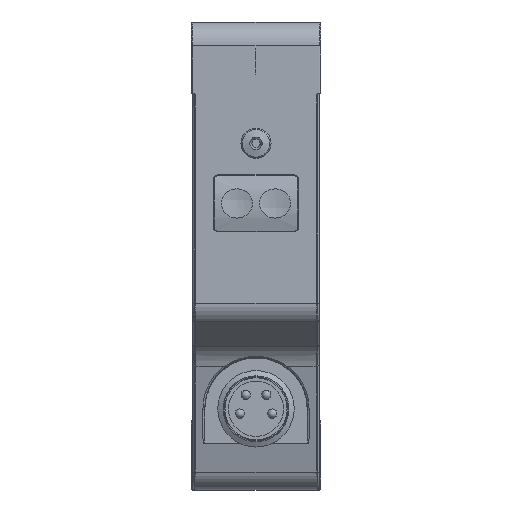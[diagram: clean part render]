
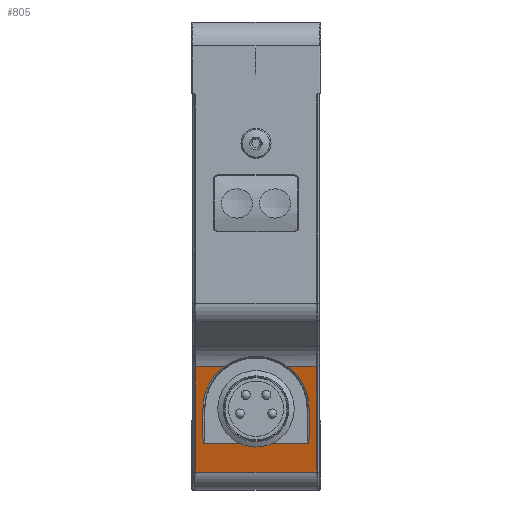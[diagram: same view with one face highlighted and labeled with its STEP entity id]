
A CAD part, left-side view. The second image highlights one B-rep face of the part: STEP entity #805.
In plain terms, the highlighted planar face has unit normal (-0.966, 0, -0.259).
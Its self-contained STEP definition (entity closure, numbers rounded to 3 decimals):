
#805 = ADVANCED_FACE( '', ( #1668 ), #1669, .T. );
#1668 = FACE_OUTER_BOUND( '', #3081, .T. );
#1669 = PLANE( '', #3082 );
#3081 = EDGE_LOOP( '', ( #5721, #5722, #5723, #5724, #5725, #5726, #5727, #5728, #5729, #5730 ) );
#3082 = AXIS2_PLACEMENT_3D( '', #5731, #5732, #5733 );
#5721 = ORIENTED_EDGE( '', *, *, #7218, .T. );
#5722 = ORIENTED_EDGE( '', *, *, #6373, .T. );
#5723 = ORIENTED_EDGE( '', *, *, #6673, .T. );
#5724 = ORIENTED_EDGE( '', *, *, #7219, .T. );
#5725 = ORIENTED_EDGE( '', *, *, #7134, .T. );
#5726 = ORIENTED_EDGE( '', *, *, #6863, .T. );
#5727 = ORIENTED_EDGE( '', *, *, #6674, .T. );
#5728 = ORIENTED_EDGE( '', *, *, #7220, .T. );
#5729 = ORIENTED_EDGE( '', *, *, #7087, .T. );
#5730 = ORIENTED_EDGE( '', *, *, #6574, .T. );
#5731 = CARTESIAN_POINT( '', ( -31.5, -58.085, -13.6 ) );
#5732 = DIRECTION( '', ( -0.966, 0., -0.259 ) );
#5733 = DIRECTION( '', ( 0.259, 0., -0.966 ) );
#6373 = EDGE_CURVE( '', #7406, #7404, #7407, .F. );
#6574 = EDGE_CURVE( '', #7754, #7752, #7755, .T. );
#6673 = EDGE_CURVE( '', #7404, #7386, #7909, .T. );
#6674 = EDGE_CURVE( '', #7910, #7710, #7911, .T. );
#6863 = EDGE_CURVE( '', #8201, #7910, #8202, .T. );
#7087 = EDGE_CURVE( '', #8518, #7754, #8519, .T. );
#7134 = EDGE_CURVE( '', #8253, #8201, #8579, .F. );
#7218 = EDGE_CURVE( '', #7752, #7406, #8676, .T. );
#7219 = EDGE_CURVE( '', #7386, #8253, #8677, .T. );
#7220 = EDGE_CURVE( '', #7710, #8518, #8678, .F. );
#7386 = VERTEX_POINT( '', #8864 );
#7404 = VERTEX_POINT( '', #8886 );
#7406 = VERTEX_POINT( '', #8888 );
#7407 = ELLIPSE( '', #8889, 5.76, 5.564 );
#7710 = VERTEX_POINT( '', #9375 );
#7752 = VERTEX_POINT( '', #9514 );
#7754 = VERTEX_POINT( '', #9516 );
#7755 = LINE( '', #9517, #9518 );
#7909 = LINE( '', #9768, #9769 );
#7910 = VERTEX_POINT( '', #9770 );
#7911 = LINE( '', #9771, #9772 );
#8201 = VERTEX_POINT( '', #10269 );
#8202 = LINE( '', #10270, #10271 );
#8253 = VERTEX_POINT( '', #10336 );
#8518 = VERTEX_POINT( '', #10772 );
#8519 = LINE( '', #10773, #10774 );
#8579 = LINE( '', #10850, #10851 );
#8676 = LINE( '', #11071, #11072 );
#8677 = LINE( '', #11073, #11074 );
#8678 = ELLIPSE( '', #11075, 5.76, 5.564 );
#8864 = CARTESIAN_POINT( '', ( -34.978, 6.4, -0.618 ) );
#8886 = CARTESIAN_POINT( '', ( -34.978, 3.261, -0.618 ) );
#8888 = CARTESIAN_POINT( '', ( -33.764, 5.563, -5.152 ) );
#8889 = AXIS2_PLACEMENT_3D( '', #11341, #11342, #11343 );
#9375 = CARTESIAN_POINT( '', ( -34.978, -3.261, -0.618 ) );
#9514 = CARTESIAN_POINT( '', ( -32.793, 5.547, -8.774 ) );
#9516 = CARTESIAN_POINT( '', ( -32.793, -5.547, -8.774 ) );
#9517 = CARTESIAN_POINT( '', ( -32.793, -58.085, -8.774 ) );
#9518 = VECTOR( '', #11628, 1000. );
#9768 = CARTESIAN_POINT( '', ( -34.978, 6.8, -0.618 ) );
#9769 = VECTOR( '', #11753, 1000. );
#9770 = CARTESIAN_POINT( '', ( -34.978, -6.4, -0.618 ) );
#9771 = CARTESIAN_POINT( '', ( -34.978, 6.8, -0.618 ) );
#9772 = VECTOR( '', #11754, 1000. );
#10269 = CARTESIAN_POINT( '', ( -31.996, -6.4, -11.747 ) );
#10270 = CARTESIAN_POINT( '', ( -34.978, -6.4, -0.618 ) );
#10271 = VECTOR( '', #11999, 1000. );
#10336 = CARTESIAN_POINT( '', ( -31.996, 6.4, -11.747 ) );
#10772 = CARTESIAN_POINT( '', ( -33.764, -5.563, -5.152 ) );
#10773 = CARTESIAN_POINT( '', ( -31.561, -5.525, -13.371 ) );
#10774 = VECTOR( '', #12305, 1000. );
#10850 = CARTESIAN_POINT( '', ( -31.996, -58.085, -11.747 ) );
#10851 = VECTOR( '', #12367, 1000. );
#11071 = CARTESIAN_POINT( '', ( -31.426, 5.523, -13.878 ) );
#11072 = VECTOR( '', #12453, 1000. );
#11073 = CARTESIAN_POINT( '', ( -31.996, 6.4, -11.747 ) );
#11074 = VECTOR( '', #12454, 1000. );
#11075 = AXIS2_PLACEMENT_3D( '', #12455, #12456, #12457 );
#11341 = CARTESIAN_POINT( '', ( -33.771, 0., -5.126 ) );
#11342 = DIRECTION( '', ( -0.966, 0., -0.259 ) );
#11343 = DIRECTION( '', ( -0.259, 0., 0.966 ) );
#11628 = DIRECTION( '', ( 0., 1., 0. ) );
#11753 = DIRECTION( '', ( 0., 1., 0. ) );
#11754 = DIRECTION( '', ( 0., 1., 0. ) );
#11999 = DIRECTION( '', ( -0.259, 0., 0.966 ) );
#12305 = DIRECTION( '', ( 0.259, 0.005, -0.966 ) );
#12367 = DIRECTION( '', ( 0., 1., 0. ) );
#12453 = DIRECTION( '', ( -0.259, 0.005, 0.966 ) );
#12454 = DIRECTION( '', ( 0.259, 0., -0.966 ) );
#12455 = CARTESIAN_POINT( '', ( -33.771, 0., -5.126 ) );
#12456 = DIRECTION( '', ( -0.966, 0., -0.259 ) );
#12457 = DIRECTION( '', ( -0.259, 0., 0.966 ) );
